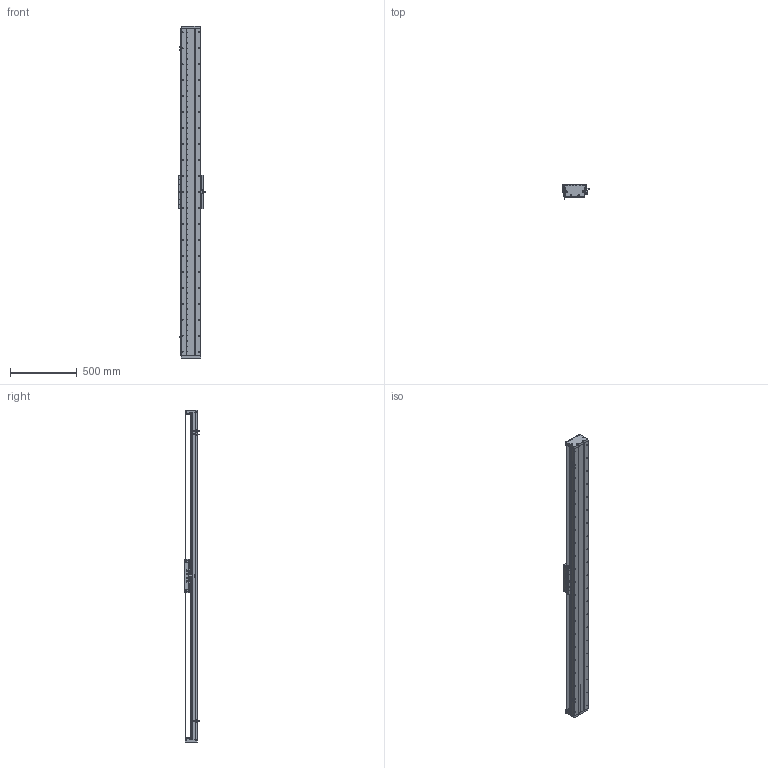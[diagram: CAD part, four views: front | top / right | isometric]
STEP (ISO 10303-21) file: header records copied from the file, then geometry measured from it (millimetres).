
FILE_DESCRIPTION (( 'STEP AP203' ), '1' );
FILE_NAME ('DA-C145-C3-T2160-C010-0.2 眻盄萇儂.STEP', '2025-08-14T01:31:48', ( '' ), ( '' ), 'SwSTEP 2.0', 'SolidWorks 2019', '' );
FILE_SCHEMA (( 'CONFIG_CONTROL_DESIGN' ));
Length unit declared in the file: millimetre
Products named in the file (32): 葩璃 DA95-HXJ-00 遣喳砎蝶^DA-C145-C3-T-C010-0.2; 葩璃 CU145 詩湍郪璃^DA-C145-C3-T-C010-0.2; 复件 DA95-HK-GT-00 滑块钢轨^CU145-W-00 一体化滑动台板; 复件 DA145-C3-YB-A-00 压板A^CU145-W 滚珠滑台; 复件 半圆头内六角螺钉 M3×6^CU145-W 滚珠滑台; 复件 DA145-C3-DK-00 挡块^CU145-W 滚珠滑台; 葩璃 CKM03-W060-C1C2-TP-0.2^DA-C145-C3-T-C010-0.2; 葩璃 XD-U-02L 棠掑喜^DA-C145-C3-T-C010-0.2; IU-CU145-L-00 菁釱(L2460); 复件 DA95-MFP-01 密封片^CU145-W 滚珠滑台; 葩璃 CKMA01-W060-TRL^DA-C145-C3-T-C010-0.2; 复件 DA146 钢带拉块^复件 CU145 钢带组件_DA-C145-C3-T-C010-0.2; 葩璃 DA95-GT-T-00^IU-CU145-L 菁釱絳寢; CU145-W 幗紩賑怢; 葩璃 DA145-C3-DP-B-00 菜えB^CU145-W 幗紩賑怢; 复件 DA145-GYP-00 光电感应片^DA-C145-C3-T-C010-0.2; 复件 DA95-DB-00  挡板^CU145-W 滚珠滑台; DA-C145-C3-T2160-C010-0.2 眻盄萇儂; 葩璃 DMA-010-0.2 黍杅芛^DA-C145-C3-T-C010-0.2; 复件 DA145-C3-YB-B-00 压板B^CU145-W 滚珠滑台; 葩璃 PM-T45^DA-C145-C3-T-C010-0.2; 66245-CU145-HT-W-00 賑雄怢啣(3D芞祧)(00); TAY01-M8; IU-CU145-L 菁釱絳寢; 葩璃 鞠褒情蹟譫 M3^DA-C145-C3-T-C010-0.2; 复件 纯铜油杯 6x6mm^CU145-W 滚珠滑台; 复件 内六角平端紧定螺钉 GB.T77-2000 M5×10^CU145-W 滚珠滑台; 复件 DA145 钢带^复件 CU145 钢带组件_DA-C145-C3-T-C010-0.2; 复件 DA145-DG 钢带端盖^复件 CU145 钢带组件_DA-C145-C3-T-C010-0.2; 葩璃 DA145-C3-DP-A-00 菜えA^CU145-W 幗紩賑怢; 复件 DA146 钢带垫块^复件 CU145 钢带组件_DA-C145-C3-T-C010-0.2; CU145-W-00 珨极趙賑雄怢啣
Assembly tree (103 placements, depth 4):
  DA-C145-C3-T2160-C010-0.2 眻盄萇儂
    IU-CU145-L 菁釱絳寢
      IU-CU145-L-00 菁釱(L2460)
      葩璃 DA95-GT-T-00^IU-CU145-L 菁釱絳寢  x4
    葩璃 CU145 詩湍郪璃^DA-C145-C3-T-C010-0.2
      复件 DA145-DG 钢带端盖^复件 CU145 钢带组件_DA-C145-C3-T-C010-0.2  x2
      复件 DA146 钢带拉块^复件 CU145 钢带组件_DA-C145-C3-T-C010-0.2  x2
      复件 DA146 钢带垫块^复件 CU145 钢带组件_DA-C145-C3-T-C010-0.2  x2
      复件 DA145 钢带^复件 CU145 钢带组件_DA-C145-C3-T-C010-0.2
    CU145-W 幗紩賑怢
      CU145-W-00 珨极趙賑雄怢啣
        66245-CU145-HT-W-00 賑雄怢啣(3D芞祧)(00)
        复件 DA95-HK-GT-00 滑块钢轨^CU145-W-00 一体化滑动台板  x8
      复件 DA95-MFP-01 密封片^CU145-W 滚珠滑台  x8
      复件 DA95-DB-00  挡板^CU145-W 滚珠滑台  x8
      复件 内六角平端紧定螺钉 GB.T77-2000 M5×10^CU145-W 滚珠滑台  x4
      复件 纯铜油杯 6x6mm^CU145-W 滚珠滑台  x4
      复件 半圆头内六角螺钉 M3×6^CU145-W 滚珠滑台  x16
      复件 DA145-C3-DK-00 挡块^CU145-W 滚珠滑台  x4
      葩璃 DA145-C3-DP-B-00 菜えB^CU145-W 幗紩賑怢  x2
      复件 DA145-C3-YB-B-00 压板B^CU145-W 滚珠滑台  x2
      葩璃 DA145-C3-DP-A-00 菜えA^CU145-W 幗紩賑怢  x3
      复件 DA145-C3-YB-A-00 压板A^CU145-W 滚珠滑台  x3
      TAY01-M8  x4
    葩璃 CKMA01-W060-TRL^DA-C145-C3-T-C010-0.2
    葩璃 PM-T45^DA-C145-C3-T-C010-0.2  x3
    葩璃 XD-U-02L 棠掑喜^DA-C145-C3-T-C010-0.2
    葩璃 DA95-HXJ-00 遣喳砎蝶^DA-C145-C3-T-C010-0.2  x4
    复件 DA145-GYP-00 光电感应片^DA-C145-C3-T-C010-0.2
    葩璃 DMA-010-0.2 黍杅芛^DA-C145-C3-T-C010-0.2
    葩璃 CKM03-W060-C1C2-TP-0.2^DA-C145-C3-T-C010-0.2
    葩璃 鞠褒情蹟譫 M3^DA-C145-C3-T-C010-0.2  x8
Bounding box: 203.5 x 108.45 x 2496 mm (x, y, z)
Volume: 11883075.2 mm3; surface area: 3945318.3 mm2
Topology: 99 solids, 131 shells, 4606 faces, 13076 edges, 8182 vertices
Faces by surface type: cylinder 2244, plane 1594, cone 690, torus 74, sphere 4
Entity records: 124958 total; most frequent: CARTESIAN_POINT 36840, ORIENTED_EDGE 17672, DIRECTION 16907, EDGE_CURVE 8836, AXIS2_PLACEMENT_3D 6348, VERTEX_POINT 5721, VECTOR 4211, LINE 4211
